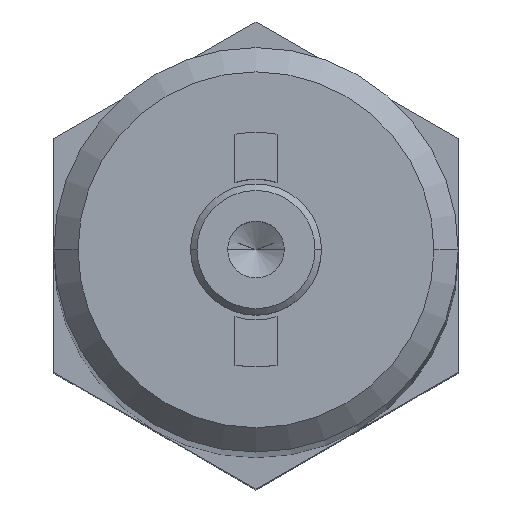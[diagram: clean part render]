
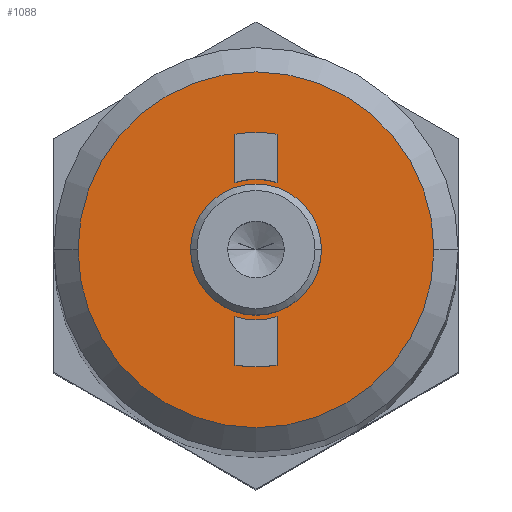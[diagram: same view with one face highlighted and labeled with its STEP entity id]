
A CAD part, top view. The second image highlights one B-rep face of the part: STEP entity #1088.
In plain terms, the highlighted planar face has unit normal (0, 0, 1).
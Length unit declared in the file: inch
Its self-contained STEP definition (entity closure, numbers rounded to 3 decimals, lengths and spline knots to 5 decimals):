
#23 = CARTESIAN_POINT ( 'NONE',  ( 0., 0., 0. ) ) ;
#25 = AXIS2_PLACEMENT_3D ( 'NONE', #2056, #1875, #1195 ) ;
#50 = EDGE_CURVE ( 'NONE', #1022, #477, #1544, .T. ) ;
#68 = ORIENTED_EDGE ( 'NONE', *, *, #676, .F. ) ;
#98 = DIRECTION ( 'NONE',  ( 0., 0., -1. ) ) ;
#99 = DIRECTION ( 'NONE',  ( 0., -1., 0. ) ) ;
#113 = LINE ( 'NONE', #1010, #230 ) ;
#126 = VERTEX_POINT ( 'NONE', #2170 ) ;
#133 = CARTESIAN_POINT ( 'NONE',  ( -0.0405, 0., 0. ) ) ;
#142 = FACE_BOUND ( 'NONE', #575, .T. ) ;
#173 = CARTESIAN_POINT ( 'NONE',  ( -0.013, -0.04151, 0. ) ) ;
#188 = ORIENTED_EDGE ( 'NONE', *, *, #1168, .F. ) ;
#190 = EDGE_CURVE ( 'NONE', #126, #1954, #784, .T. ) ;
#198 = CARTESIAN_POINT ( 'NONE',  ( 0.013, 0.07132, 0. ) ) ;
#215 = VECTOR ( 'NONE', #99, 39.37008 ) ;
#216 = ORIENTED_EDGE ( 'NONE', *, *, #1007, .T. ) ;
#230 = VECTOR ( 'NONE', #2212, 39.37008 ) ;
#289 = CARTESIAN_POINT ( 'NONE',  ( 0., 0., 0. ) ) ;
#322 = ORIENTED_EDGE ( 'NONE', *, *, #190, .F. ) ;
#336 = CIRCLE ( 'NONE', #1047, 0.11 ) ;
#408 = DIRECTION ( 'NONE',  ( 1., 0., 0. ) ) ;
#477 = VERTEX_POINT ( 'NONE', #173 ) ;
#493 = DIRECTION ( 'NONE',  ( 0., 1., 0. ) ) ;
#494 = DIRECTION ( 'NONE',  ( 1., 0., 0. ) ) ;
#512 = EDGE_CURVE ( 'NONE', #1524, #1237, #748, .T. ) ;
#529 = EDGE_LOOP ( 'NONE', ( #1191, #322, #610, #718 ) ) ;
#575 = EDGE_LOOP ( 'NONE', ( #1644, #68, #611, #661 ) ) ;
#598 = CIRCLE ( 'NONE', #1008, 0.0405 ) ;
#610 = ORIENTED_EDGE ( 'NONE', *, *, #976, .F. ) ;
#611 = ORIENTED_EDGE ( 'NONE', *, *, #512, .F. ) ;
#618 = EDGE_CURVE ( 'NONE', #1954, #1022, #2079, .T. ) ;
#620 = AXIS2_PLACEMENT_3D ( 'NONE', #23, #1568, #1912 ) ;
#657 = CARTESIAN_POINT ( 'NONE',  ( 0.013, -0.04151, 0. ) ) ;
#661 = ORIENTED_EDGE ( 'NONE', *, *, #762, .F. ) ;
#676 = EDGE_CURVE ( 'NONE', #1237, #1190, #1851, .T. ) ;
#692 = CARTESIAN_POINT ( 'NONE',  ( 0., 0., 0. ) ) ;
#718 = ORIENTED_EDGE ( 'NONE', *, *, #50, .F. ) ;
#728 = DIRECTION ( 'NONE',  ( 0., 1., 0. ) ) ;
#748 = LINE ( 'NONE', #2073, #1386 ) ;
#762 = EDGE_CURVE ( 'NONE', #1451, #1524, #1531, .T. ) ;
#781 = DIRECTION ( 'NONE',  ( 0., 0., 1. ) ) ;
#784 = CIRCLE ( 'NONE', #1593, 0.0725 ) ;
#788 = DIRECTION ( 'NONE',  ( -1., 0., 0. ) ) ;
#816 = CARTESIAN_POINT ( 'NONE',  ( -0.11, 0., 0. ) ) ;
#848 = DIRECTION ( 'NONE',  ( 0., 0., 1. ) ) ;
#891 = VERTEX_POINT ( 'NONE', #1146 ) ;
#945 = CIRCLE ( 'NONE', #620, 0.11 ) ;
#976 = EDGE_CURVE ( 'NONE', #477, #126, #113, .T. ) ;
#1007 = EDGE_CURVE ( 'NONE', #891, #1618, #336, .T. ) ;
#1008 = AXIS2_PLACEMENT_3D ( 'NONE', #692, #1906, #494 ) ;
#1010 = CARTESIAN_POINT ( 'NONE',  ( -0.013, -0.07132, 0. ) ) ;
#1022 = VERTEX_POINT ( 'NONE', #657 ) ;
#1047 = AXIS2_PLACEMENT_3D ( 'NONE', #1341, #2035, #2024 ) ;
#1075 = FACE_BOUND ( 'NONE', #529, .T. ) ;
#1088 = ADVANCED_FACE ( 'NONE', ( #1305, #1075, #142, #2102 ), #1550, .T. ) ;
#1096 = AXIS2_PLACEMENT_3D ( 'NONE', #1595, #1259, #408 ) ;
#1146 = CARTESIAN_POINT ( 'NONE',  ( 0.11, 0., 0. ) ) ;
#1147 = EDGE_CURVE ( 'NONE', #1456, #1921, #598, .T. ) ;
#1168 = EDGE_CURVE ( 'NONE', #1921, #1456, #1181, .T. ) ;
#1181 = CIRCLE ( 'NONE', #2045, 0.0405 ) ;
#1190 = VERTEX_POINT ( 'NONE', #1198 ) ;
#1191 = ORIENTED_EDGE ( 'NONE', *, *, #618, .F. ) ;
#1195 = DIRECTION ( 'NONE',  ( 1., 0., 0. ) ) ;
#1198 = CARTESIAN_POINT ( 'NONE',  ( -0.013, 0.07132, 0. ) ) ;
#1237 = VERTEX_POINT ( 'NONE', #198 ) ;
#1259 = DIRECTION ( 'NONE',  ( 0., 0., 1. ) ) ;
#1270 = AXIS2_PLACEMENT_3D ( 'NONE', #1462, #98, #1814 ) ;
#1305 = FACE_BOUND ( 'NONE', #1642, .T. ) ;
#1307 = CARTESIAN_POINT ( 'NONE',  ( -0.013, 0.04151, 0. ) ) ;
#1341 = CARTESIAN_POINT ( 'NONE',  ( 0., 0., 0. ) ) ;
#1362 = VECTOR ( 'NONE', #728, 39.37008 ) ;
#1386 = VECTOR ( 'NONE', #493, 39.37008 ) ;
#1421 = EDGE_LOOP ( 'NONE', ( #2076, #216 ) ) ;
#1426 = AXIS2_PLACEMENT_3D ( 'NONE', #1674, #1651, #788 ) ;
#1445 = EDGE_CURVE ( 'NONE', #1190, #1451, #1671, .T. ) ;
#1451 = VERTEX_POINT ( 'NONE', #1307 ) ;
#1456 = VERTEX_POINT ( 'NONE', #1655 ) ;
#1462 = CARTESIAN_POINT ( 'NONE',  ( 0., 0., 0. ) ) ;
#1469 = DIRECTION ( 'NONE',  ( -1., 0., 0. ) ) ;
#1524 = VERTEX_POINT ( 'NONE', #2181 ) ;
#1531 = CIRCLE ( 'NONE', #1270, 0.0435 ) ;
#1544 = CIRCLE ( 'NONE', #1426, 0.0435 ) ;
#1550 = PLANE ( 'NONE',  #25 ) ;
#1568 = DIRECTION ( 'NONE',  ( 0., 0., 1. ) ) ;
#1593 = AXIS2_PLACEMENT_3D ( 'NONE', #289, #781, #1469 ) ;
#1595 = CARTESIAN_POINT ( 'NONE',  ( 0., 0., 0. ) ) ;
#1618 = VERTEX_POINT ( 'NONE', #816 ) ;
#1642 = EDGE_LOOP ( 'NONE', ( #1939, #188 ) ) ;
#1644 = ORIENTED_EDGE ( 'NONE', *, *, #1445, .F. ) ;
#1651 = DIRECTION ( 'NONE',  ( 0., 0., -1. ) ) ;
#1655 = CARTESIAN_POINT ( 'NONE',  ( 0.0405, 0., 0. ) ) ;
#1671 = LINE ( 'NONE', #2168, #215 ) ;
#1674 = CARTESIAN_POINT ( 'NONE',  ( 0., 0., 0. ) ) ;
#1728 = CARTESIAN_POINT ( 'NONE',  ( 0., 0., 0. ) ) ;
#1814 = DIRECTION ( 'NONE',  ( 1., 0., 0. ) ) ;
#1851 = CIRCLE ( 'NONE', #1096, 0.0725 ) ;
#1875 = DIRECTION ( 'NONE',  ( 0., 0., 1. ) ) ;
#1906 = DIRECTION ( 'NONE',  ( 0., 0., 1. ) ) ;
#1912 = DIRECTION ( 'NONE',  ( 1., 0., 0. ) ) ;
#1921 = VERTEX_POINT ( 'NONE', #133 ) ;
#1922 = CARTESIAN_POINT ( 'NONE',  ( 0.013, -0.07132, 0. ) ) ;
#1939 = ORIENTED_EDGE ( 'NONE', *, *, #1147, .F. ) ;
#1954 = VERTEX_POINT ( 'NONE', #1971 ) ;
#1971 = CARTESIAN_POINT ( 'NONE',  ( 0.013, -0.07132, 0. ) ) ;
#2024 = DIRECTION ( 'NONE',  ( 1., 0., 0. ) ) ;
#2035 = DIRECTION ( 'NONE',  ( 0., 0., 1. ) ) ;
#2045 = AXIS2_PLACEMENT_3D ( 'NONE', #1728, #848, #2232 ) ;
#2056 = CARTESIAN_POINT ( 'NONE',  ( -0.125, 0.21651, 0. ) ) ;
#2073 = CARTESIAN_POINT ( 'NONE',  ( 0.013, 0.07132, 0. ) ) ;
#2076 = ORIENTED_EDGE ( 'NONE', *, *, #2230, .T. ) ;
#2079 = LINE ( 'NONE', #1922, #1362 ) ;
#2102 = FACE_OUTER_BOUND ( 'NONE', #1421, .T. ) ;
#2168 = CARTESIAN_POINT ( 'NONE',  ( -0.013, 0.07132, 0. ) ) ;
#2170 = CARTESIAN_POINT ( 'NONE',  ( -0.013, -0.07132, 0. ) ) ;
#2181 = CARTESIAN_POINT ( 'NONE',  ( 0.013, 0.04151, 0. ) ) ;
#2212 = DIRECTION ( 'NONE',  ( 0., -1., 0. ) ) ;
#2230 = EDGE_CURVE ( 'NONE', #1618, #891, #945, .T. ) ;
#2232 = DIRECTION ( 'NONE',  ( 1., 0., 0. ) ) ;
